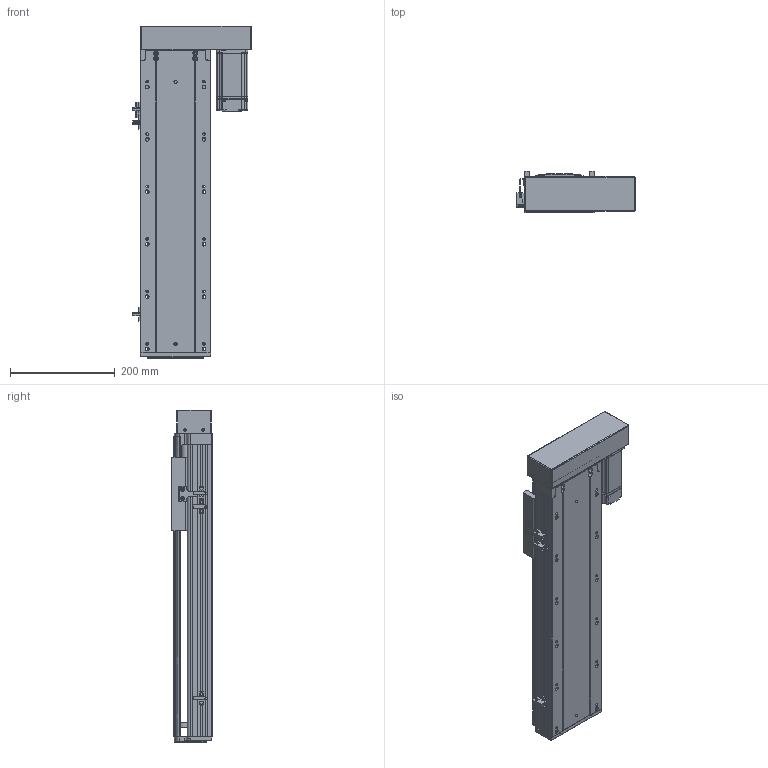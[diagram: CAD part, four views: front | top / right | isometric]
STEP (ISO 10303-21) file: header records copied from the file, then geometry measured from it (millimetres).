
FILE_DESCRIPTION (( 'STEP AP203' ), '1' );
FILE_NAME ('RY140-L1620-300-RK.SLDASM_350.step', '2021-02-22T02:54:16', ( '盈信电脑' ), ( '东莞市道滘镇水果街19号' ), 'SwSTEP 2.0', 'SolidWorks 2012', '' );
FILE_SCHEMA (( 'CONFIG_CONTROL_DESIGN' ));
Products named in the file (14): RY140-L1620-300-RK.SLDASM_350; RY140酘衵殏萇儂欶; 侂狟400W侜督萇儂; 覜茼ん672; RY120外置感应片(140共用）; RY140蛌殏萇儂假蚾啣; RY140转折电机端支撑座; 滅袉蝶18-10; 15; RY140綴裔啣; 滅袉蝶18-24; RY140-300蛌殏倰第奻裔啣-RK_350; RY140臏賑輸; RY140-300蛌殏倰第菁釱-RK_350
Assembly tree (16 placements, depth 3):
  RY140-L1620-300-RK.SLDASM_350
    RY140-300蛌殏倰第菁釱-RK_350
    RY140臏賑輸
    RY140-300蛌殏倰第奻裔啣-RK_350
    RY140綴裔啣
    滅袉蝶18-24  x2
    滅袉蝶18-10
    RY140转折电机端支撑座
    RY140蛌殏萇儂假蚾啣
    侂狟400W侜督萇儂
      15
    RY140酘衵殏萇儂欶
    覜茼ん672  x3
    RY120外置感应片(140共用）
Bounding box: 225.2 x 78 x 633 mm (x, y, z)
Volume: 2446989.2 mm3; surface area: 857953.4 mm2
Topology: 15 solids, 15 shells, 2235 faces, 6172 edges, 3968 vertices
Faces by surface type: plane 1178, cylinder 794, cone 170, bspline 93
Entity records: 70855 total; most frequent: CARTESIAN_POINT 17251, ORIENTED_EDGE 11096, DIRECTION 10461, EDGE_CURVE 5548, VERTEX_POINT 3636, VECTOR 3589, LINE 3589, AXIS2_PLACEMENT_3D 3436
